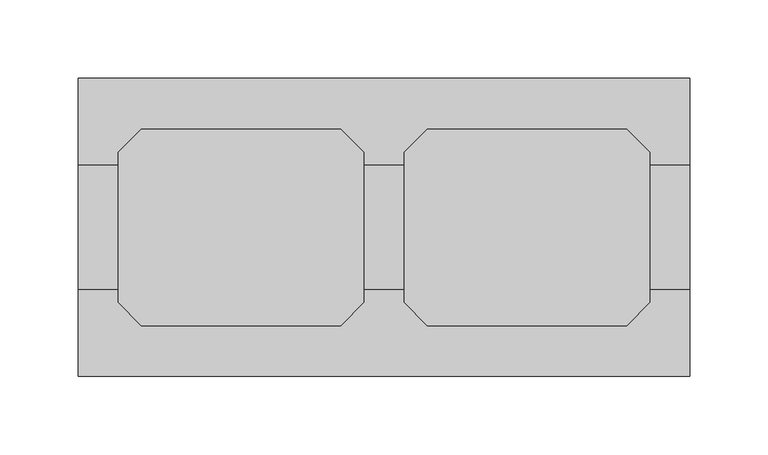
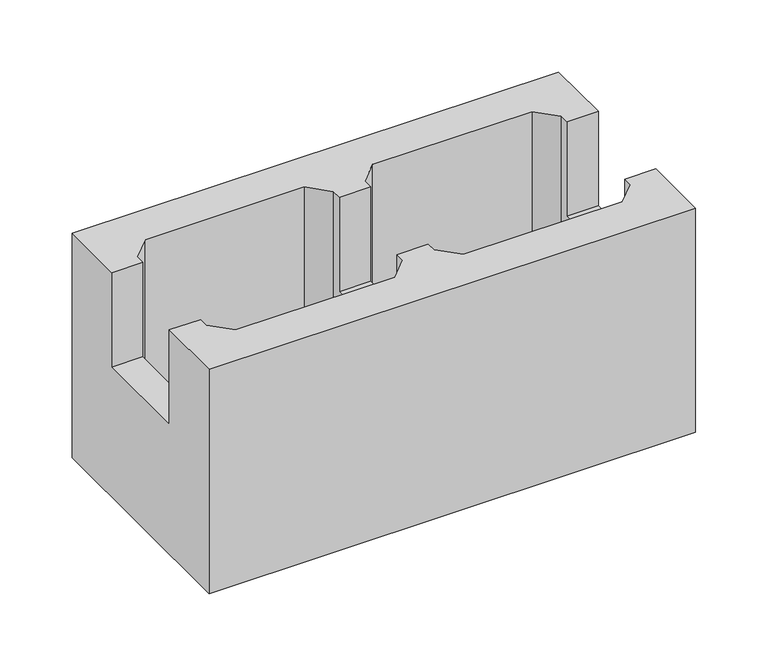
"""IFC4 building model written with IfcOpenShell, lengths in millimetres: proxy geometry, Bloco de Concreto - Canaleta Inteira : Família 20 x 40 - Classe A."""

from ifc_helpers import new_model, si_unit, origin, place, context, project, spatial, faceted_brep, source, transform, mapped, element, save


def generic_models_7627f778(model_context):
    return source(origin(), model_context, "Body", "Brep", [
        faceted_brep([(195.0, 95.0, 190.0), (-195.0, 95.0, 190.0), (-195.0, 40.0, 190.0), (-170.0, 40.0, 190.0), (-170.0, 48.0, 190.0), (-155.0, 63.0, 190.0), (-27.5, 63.0, 190.0), (-12.5, 48.0, 190.0), (-12.5, 40.0, 190.0), (12.5, 40.0, 190.0), (12.5, 48.0, 190.0), (27.5, 63.0, 190.0), (155.0, 63.0, 190.0), (170.0, 48.0, 190.0), (170.0, 40.0, 190.0), (195.0, 40.0, 190.0), (-195.0, -95.0, 190.0), (195.0, -95.0, 190.0), (195.0, -40.0, 190.0), (170.0, -40.0, 190.0), (170.0, -48.0, 190.0), (155.0, -63.0, 190.0), (27.5, -63.0, 190.0), (12.5, -48.0, 190.0), (12.5, -40.0, 190.0), (-12.5, -40.0, 190.0), (-12.5, -48.0, 190.0), (-27.5, -63.0, 190.0), (-155.0, -63.0, 190.0), (-170.0, -48.0, 190.0), (-170.0, -40.0, 190.0), (-195.0, -40.0, 190.0), (195.0, 95.0, 0.0), (-195.0, 95.0, 0.0), (-195.0, -95.0, 0.0), (-195.0, -40.0, 110.0), (-195.0, 40.0, 110.0), (195.0, -95.0, 0.0), (195.0, 40.0, 110.0), (195.0, -40.0, 110.0), (-12.5, 48.0, 3.0), (-12.5, -48.0, 3.0), (-12.5, -40.0, 110.0), (-12.5, 40.0, 110.0), (-27.5, -63.0, 3.0), (-155.0, -63.0, 3.0), (-170.0, -48.0, 3.0), (-170.0, 48.0, 3.0), (-170.0, 40.0, 110.0), (-170.0, -40.0, 110.0), (-155.0, 63.0, 3.0), (-27.5, 63.0, 3.0), (170.0, 48.0, 3.0), (170.0, -48.0, 3.0), (170.0, -40.0, 110.0), (170.0, 40.0, 110.0), (155.0, -63.0, 3.0), (27.5, -63.0, 3.0), (12.5, -48.0, 3.0), (12.5, 48.0, 3.0), (12.5, 40.0, 110.0), (12.5, -40.0, 110.0), (27.5, 63.0, 3.0), (155.0, 63.0, 3.0)], [[[0, 1, 2, 3, 4, 5, 6, 7, 8, 9, 10, 11, 12, 13, 14, 15]], [[16, 17, 18, 19, 20, 21, 22, 23, 24, 25, 26, 27, 28, 29, 30, 31]], [[1, 0, 32, 33]], [[33, 34, 16, 31, 35, 36, 2, 1]], [[17, 16, 34, 37]], [[37, 32, 0, 15, 38, 39, 18, 17]], [[7, 40, 41, 26, 25, 42, 43, 8]], [[28, 27, 44, 45]], [[29, 46, 47, 4, 3, 48, 49, 30]], [[6, 5, 50, 51]], [[13, 52, 53, 20, 19, 54, 55, 14]], [[22, 21, 56, 57]], [[23, 58, 59, 10, 9, 60, 61, 24]], [[12, 11, 62, 63]], [[7, 6, 51, 40]], [[27, 26, 41, 44]], [[29, 28, 45, 46]], [[5, 4, 47, 50]], [[13, 12, 63, 52]], [[21, 20, 53, 56]], [[23, 22, 57, 58]], [[11, 10, 59, 62]], [[41, 40, 51, 50, 47, 46, 45, 44]], [[53, 52, 63, 62, 59, 58, 57, 56]], [[32, 37, 34, 33]], [[35, 49, 48, 36]], [[54, 39, 38, 55]], [[42, 61, 60, 43]], [[36, 48, 3, 2]], [[55, 38, 15, 14]], [[43, 60, 9, 8]], [[49, 35, 31, 30]], [[39, 54, 19, 18]], [[61, 42, 25, 24]]]),
    ])


if __name__ == "__main__":
    model = new_model("IFC4")
    model_context = context("Model", 3, world=origin())
    ifc_project = project(units=[si_unit("LENGTHUNIT", "METRE", prefix="MILLI")], contexts=[model_context])
    site = spatial("IfcSite", under=ifc_project)
    building = spatial("IfcBuilding", under=site)
    placement = place(None, origin())
    generic_models_shape = generic_models_7627f778(model_context)
    element("IfcBuildingElementProxy", 1, Name="Bloco de Concreto - Canaleta Inteira : Família 20 x 40 - Classe A", ObjectType="Bloco de Concreto - Canaleta Inteira : Família 20 x 40 - Classe A", at=placement, inside=building, context=model_context, shape_type="MappedRepresentation", body=[
        mapped(generic_models_shape, transform((0.0, 0.0, 0.0), x_axis=(1.0, 0.0, 0.0), y_axis=(0.0, 1.0, 0.0), z_axis=(0.0, 0.0, 1.0))),
    ])
    save(model, "model.ifc")
